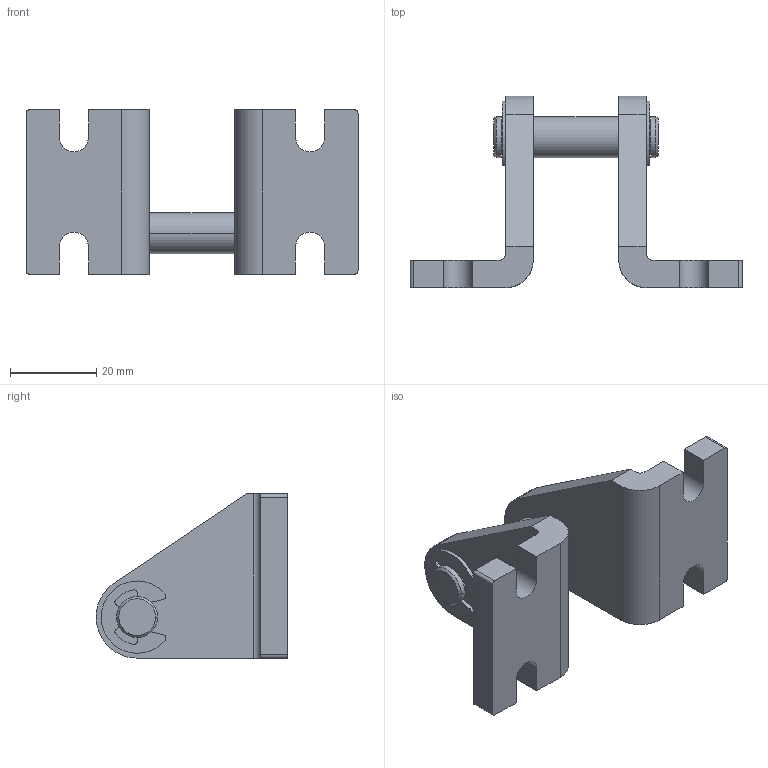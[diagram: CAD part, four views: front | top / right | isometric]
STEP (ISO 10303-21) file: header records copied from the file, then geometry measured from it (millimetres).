
FILE_DESCRIPTION((''),'2;1');
FILE_NAME('M229005','2020-01-06T19:13:21',('MeFernandez'),('ASCO Numatics'),'CREO PARAMETRIC BY PTC INC, 2018190','CREO PARAMETRIC BY PTC INC, 2018190','');
FILE_SCHEMA(('AUTOMOTIVE_DESIGN_CC2 { 1 2 10303 214 -1 1 5 2 }'));
Length unit declared in the file: inch
Products named in the file (5): M031009; M029005R; M029005L; M032005; M229005
Assembly tree (5 placements, depth 2):
  M229005
    M031009
    M029005R
    M029005L
    M032005  x2
Bounding box: 76.96 x 44.44 x 38.1 mm (x, y, z)
Volume: 26533.4 mm3; surface area: 12484.8 mm2
Topology: 5 solids, 5 shells, 106 faces, 272 edges, 180 vertices
Faces by surface type: cylinder 52, plane 50, cone 4
Entity records: 3463 total; most frequent: DIRECTION 494, CARTESIAN_POINT 458, ORIENTED_EDGE 436, PRESENTATION_STYLE_ASSIGNMENT 222, STYLED_ITEM 222, CURVE_STYLE 218, EDGE_CURVE 218, AXIS2_PLACEMENT_3D 180
